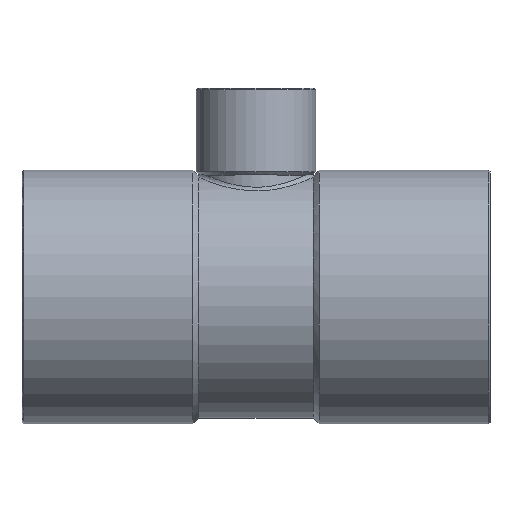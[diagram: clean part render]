
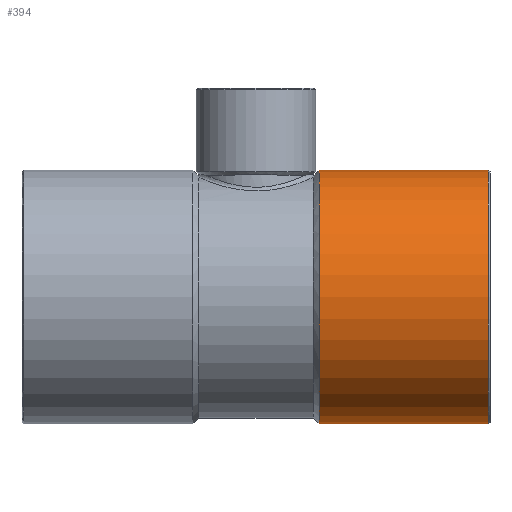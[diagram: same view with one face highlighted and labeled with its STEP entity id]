
A CAD part, top view. The second image highlights one B-rep face of the part: STEP entity #394.
In plain terms, the highlighted cylindrical face has radius 15.175 mm (diameter 30.35 mm), a partial arc.
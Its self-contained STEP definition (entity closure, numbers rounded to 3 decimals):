
#353=CARTESIAN_POINT('',(17.772,0.0,0.0));
#354=DIRECTION('',(1.0,0.0,0.0));
#355=DIRECTION('',(0.0,1.0,0.0));
#356=AXIS2_PLACEMENT_3D('',#353,#354,#355);
#357=CYLINDRICAL_SURFACE('',#356,15.175);
#358=CARTESIAN_POINT('',(7.544,15.175,0.0));
#359=VERTEX_POINT('',#358);
#360=CARTESIAN_POINT('',(27.8,15.175,0.));
#361=VERTEX_POINT('',#360);
#362=CARTESIAN_POINT('',(7.544,15.175,0.0));
#363=DIRECTION('',(1.0,0.0,0.0));
#364=VECTOR('',#363,20.256);
#365=LINE('',#362,#364);
#366=EDGE_CURVE('',#359,#361,#365,.T.);
#367=ORIENTED_EDGE('',*,*,#366,.F.);
#368=CARTESIAN_POINT('',(7.544,-15.175,0.));
#369=VERTEX_POINT('',#368);
#370=CARTESIAN_POINT('',(7.544,0.0,0.0));
#371=DIRECTION('',(1.0,0.0,0.0));
#372=DIRECTION('',(0.0,1.0,0.0));
#373=AXIS2_PLACEMENT_3D('',#370,#371,#372);
#374=CIRCLE('',#373,15.175);
#375=EDGE_CURVE('',#359,#369,#374,.T.);
#376=ORIENTED_EDGE('',*,*,#375,.T.);
#377=CARTESIAN_POINT('',(27.8,-15.175,0.));
#378=VERTEX_POINT('',#377);
#379=CARTESIAN_POINT('',(27.8,-15.175,0.));
#380=DIRECTION('',(-1.0,0.0,0.0));
#381=VECTOR('',#380,20.256);
#382=LINE('',#379,#381);
#383=EDGE_CURVE('',#378,#369,#382,.T.);
#384=ORIENTED_EDGE('',*,*,#383,.F.);
#385=CARTESIAN_POINT('',(27.8,0.0,0.0));
#386=DIRECTION('',(1.0,0.0,0.0));
#387=DIRECTION('',(0.0,-1.0,0.0));
#388=AXIS2_PLACEMENT_3D('',#385,#386,#387);
#389=CIRCLE('',#388,15.175);
#390=EDGE_CURVE('',#361,#378,#389,.T.);
#391=ORIENTED_EDGE('',*,*,#390,.F.);
#392=EDGE_LOOP('',(#367,#376,#384,#391));
#393=FACE_OUTER_BOUND('',#392,.T.);
#394=ADVANCED_FACE('',(#393),#357,.T.);
